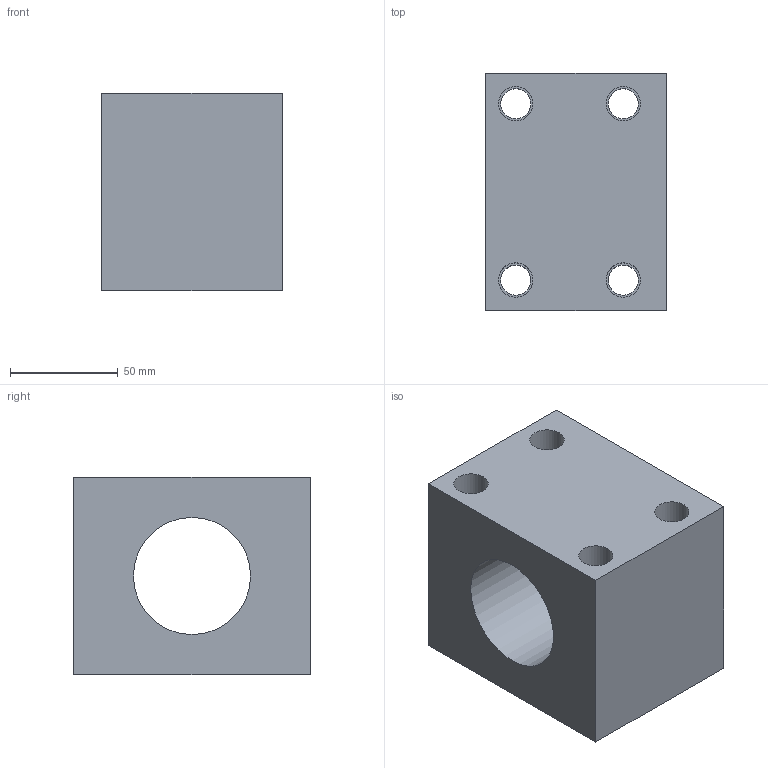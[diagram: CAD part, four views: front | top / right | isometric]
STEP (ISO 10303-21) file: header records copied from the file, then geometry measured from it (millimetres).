
FILE_DESCRIPTION(/* description */ (''),/* implementation_level */ '2;1');
FILE_NAME(/* name */ 'NH32B.stp',/* time_stamp */ '2017-08-19T10:42:12+08:00',/* author */ (''),/* organization */ (''),/* preprocessor_version */ 'ST-DEVELOPER v15',/* originating_system */ 'SIEMENS PLM Software NX 9.0',/* authorisation */ '');
FILE_SCHEMA (('CONFIG_CONTROL_DESIGN'));
Length unit declared in the file: millimetre
Products named in the file (1): NH32B
Bounding box: 84 x 110 x 92 mm (x, y, z)
Volume: 574496.4 mm3; surface area: 83673.9 mm2
Topology: 1 solids, 1 shells, 39 faces, 91 edges, 62 vertices
Faces by surface type: cylinder 19, plane 14, cone 6
Full cylindrical faces by diameter (mm): 6.8 x6, 14 x4, 16 x4, 22 x4, 54.4 x1
Entity records: 994 total; most frequent: DIRECTION 168, CARTESIAN_POINT 142, ORIENTED_EDGE 100, FACE_BOUND 86, EDGE_LOOP 82, AXIS2_PLACEMENT_3D 78, VERTEX_POINT 52, EDGE_CURVE 50
